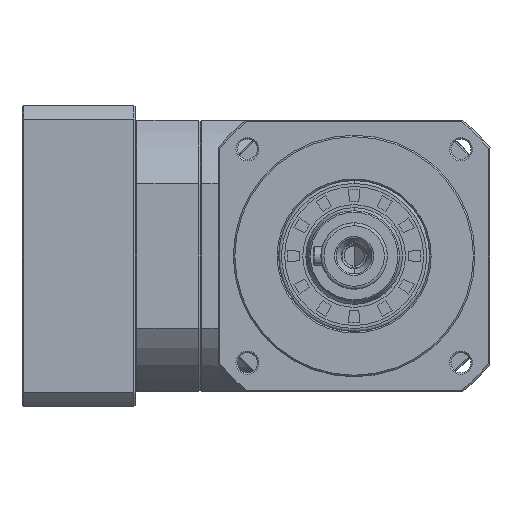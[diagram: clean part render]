
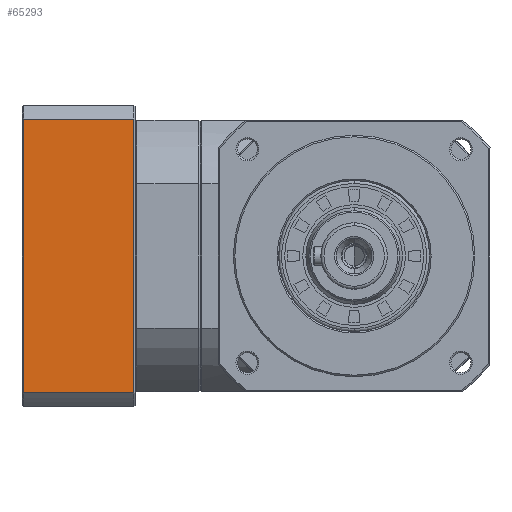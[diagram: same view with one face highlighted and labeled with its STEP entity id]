
A CAD part, left-side view. The second image highlights one B-rep face of the part: STEP entity #65293.
In plain terms, the highlighted planar face has unit normal (-1, 0, 0).
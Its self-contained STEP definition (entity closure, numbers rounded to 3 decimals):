
#725 = DIRECTION ( 'NONE',  ( 0., -1., 0. ) ) ;
#1622 = DIRECTION ( 'NONE',  ( 0., 1., 0. ) ) ;
#6270 = DIRECTION ( 'NONE',  ( -1., 0., 0. ) ) ;
#9723 = CARTESIAN_POINT ( 'NONE',  ( 109., 109.5, -45.346 ) ) ;
#12296 = VERTEX_POINT ( 'NONE', #33772 ) ;
#12381 = VECTOR ( 'NONE', #1622, 1000. ) ;
#12681 = PLANE ( 'NONE',  #14075 ) ;
#14075 = AXIS2_PLACEMENT_3D ( 'NONE', #34708, #6270, #70760 ) ;
#14962 = LINE ( 'NONE', #72051, #76621 ) ;
#23006 = ORIENTED_EDGE ( 'NONE', *, *, #59784, .T. ) ;
#27129 = CARTESIAN_POINT ( 'NONE',  ( 109., 73., 45.346 ) ) ;
#33772 = CARTESIAN_POINT ( 'NONE',  ( 109., 73., -45.346 ) ) ;
#34708 = CARTESIAN_POINT ( 'NONE',  ( 109., 73., -45.346 ) ) ;
#34893 = EDGE_CURVE ( 'NONE', #63023, #12296, #67705, .T. ) ;
#35961 = CARTESIAN_POINT ( 'NONE',  ( 109., 109.5, 45.346 ) ) ;
#39205 = FACE_OUTER_BOUND ( 'NONE', #46296, .T. ) ;
#42633 = DIRECTION ( 'NONE',  ( 0., 0., -1. ) ) ;
#44414 = CARTESIAN_POINT ( 'NONE',  ( 109., 91.25, 45.346 ) ) ;
#45625 = CARTESIAN_POINT ( 'NONE',  ( 109., 91.25, -45.346 ) ) ;
#46296 = EDGE_LOOP ( 'NONE', ( #59721, #94555, #47536, #23006 ) ) ;
#47536 = ORIENTED_EDGE ( 'NONE', *, *, #52274, .F. ) ;
#48359 = VECTOR ( 'NONE', #42633, 1000. ) ;
#52274 = EDGE_CURVE ( 'NONE', #77086, #63023, #65831, .T. ) ;
#57029 = DIRECTION ( 'NONE',  ( 0., 0., -1. ) ) ;
#59721 = ORIENTED_EDGE ( 'NONE', *, *, #87678, .F. ) ;
#59784 = EDGE_CURVE ( 'NONE', #77086, #62486, #14962, .T. ) ;
#62486 = VERTEX_POINT ( 'NONE', #9723 ) ;
#63023 = VERTEX_POINT ( 'NONE', #27129 ) ;
#63730 = LINE ( 'NONE', #45625, #12381 ) ;
#64306 = CARTESIAN_POINT ( 'NONE',  ( 109., 73., 0. ) ) ;
#65293 = ADVANCED_FACE ( 'NONE', ( #39205 ), #12681, .T. ) ;
#65831 = LINE ( 'NONE', #44414, #83085 ) ;
#67705 = LINE ( 'NONE', #64306, #48359 ) ;
#70760 = DIRECTION ( 'NONE',  ( 0., 0., 1. ) ) ;
#72051 = CARTESIAN_POINT ( 'NONE',  ( 109., 109.5, 0. ) ) ;
#76621 = VECTOR ( 'NONE', #57029, 1000. ) ;
#77086 = VERTEX_POINT ( 'NONE', #35961 ) ;
#83085 = VECTOR ( 'NONE', #725, 1000. ) ;
#87678 = EDGE_CURVE ( 'NONE', #12296, #62486, #63730, .T. ) ;
#94555 = ORIENTED_EDGE ( 'NONE', *, *, #34893, .F. ) ;
